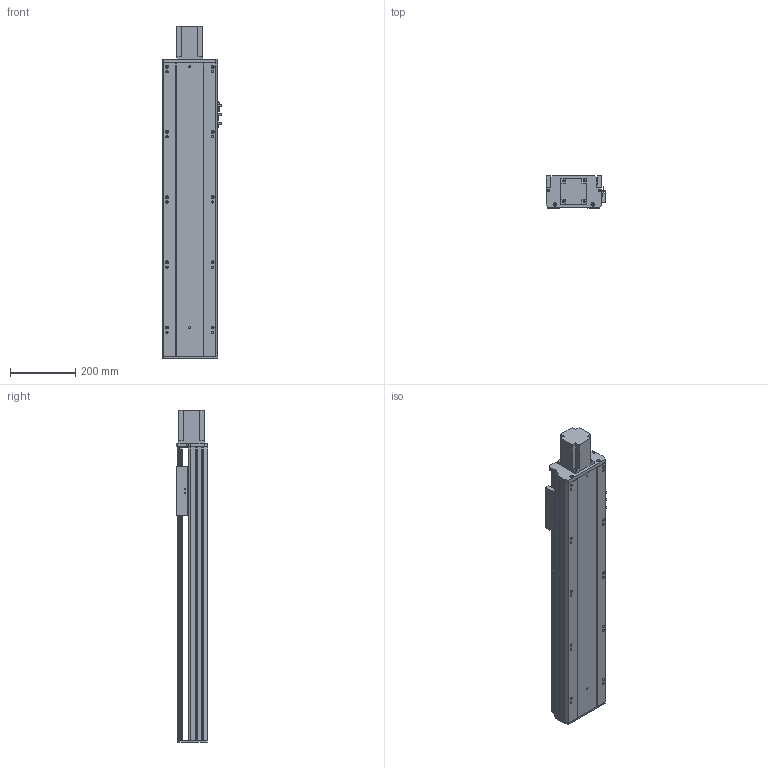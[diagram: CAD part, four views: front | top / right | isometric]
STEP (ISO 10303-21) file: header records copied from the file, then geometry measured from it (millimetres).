
FILE_DESCRIPTION (( 'STEP AP203' ), '1' );
FILE_NAME ('Y170-D10-S650-BD-P750W.STEP', '2020-01-22T06:50:48', ( '微软用户' ), ( '微软中国' ), 'SwSTEP 2.0', 'SolidWorks 2017', '' );
FILE_SCHEMA (( 'CONFIG_CONTROL_DESIGN' ));
Length unit declared in the file: millimetre
Products named in the file (10): 135-盓傅釱-FK15; 侂狟750W; Y170耜裔--準---; Y170-陔遴奻裔-BD; Y170--雄赽釱-梓--; YD-Y100-135-新外置传感挡片(通用）; Y170-D10-S650-BD-P750W; Y100-135俋离換覜ん; 170--掛极-BD; Y170-萇儂楊擘啣--
Assembly tree (11 placements, depth 2):
  Y170-D10-S650-BD-P750W
    YD-Y100-135-新外置传感挡片(通用）
    Y100-135俋离換覜ん  x3
    170--掛极-BD
    Y170-萇儂楊擘啣--
    135-盓傅釱-FK15
    侂狟750W
    Y170耜裔--準---
    Y170-陔遴奻裔-BD
    Y170--雄赽釱-梓--
Bounding box: 183.5 x 97 x 1018.5 mm (x, y, z)
Volume: 4549457.2 mm3; surface area: 1484744.8 mm2
Topology: 11 solids, 11 shells, 804 faces, 2259 edges, 1496 vertices
Faces by surface type: cylinder 414, plane 388, torus 2
Entity records: 25871 total; most frequent: CARTESIAN_POINT 4539, DIRECTION 4345, ORIENTED_EDGE 4182, EDGE_CURVE 2091, AXIS2_PLACEMENT_3D 1558, VERTEX_POINT 1384, VECTOR 1229, LINE 1229
